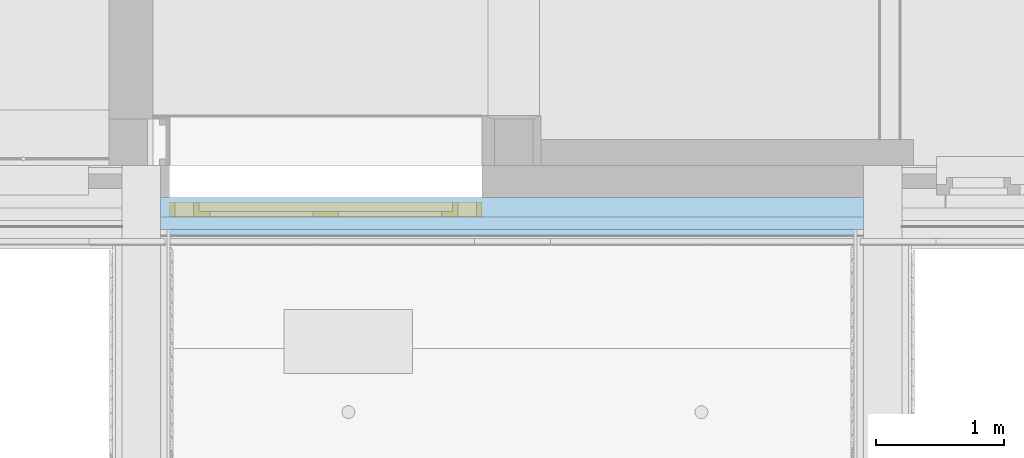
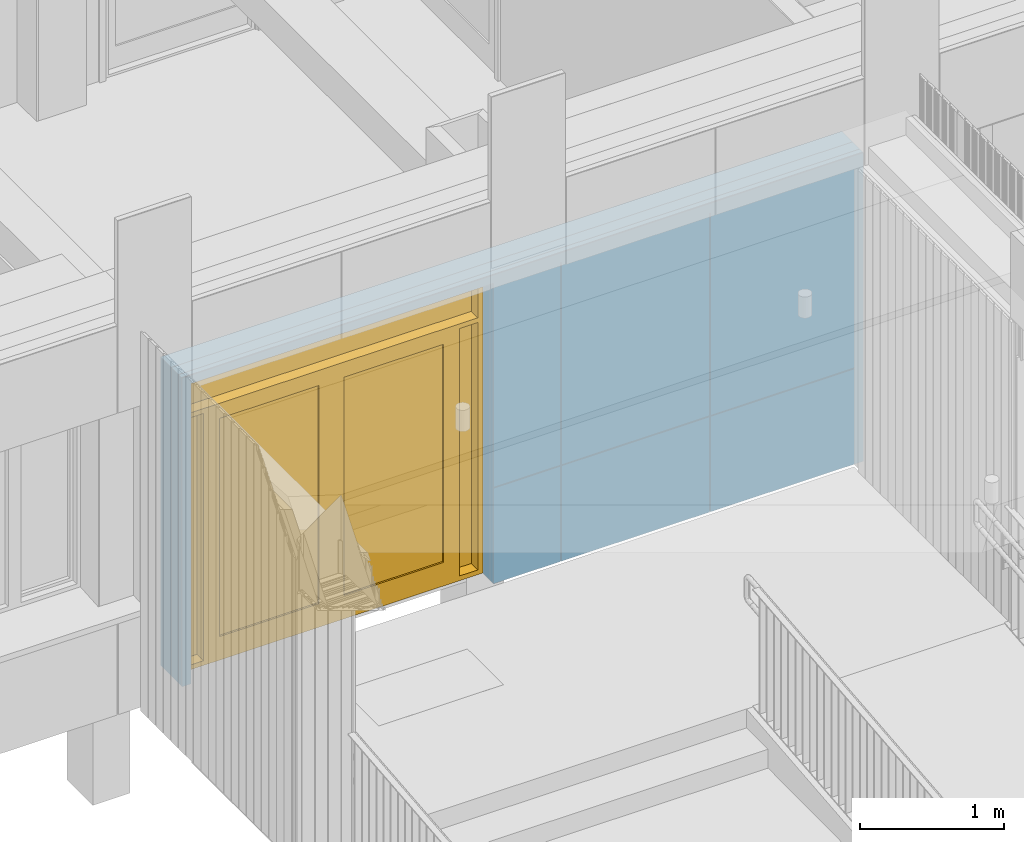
# One storey, part 101 of 418: 1 door, 4 openings, 1 element without a shape of its own, plus 4 elements that do not belong to this part.
"""IFC2X3 building model written with IfcOpenShell, lengths in millimetres."""

import ifcopenshell
import ifcopenshell.guid

model = None  # the IFC model being written
_history = None  # IfcOwnerHistory: only IFC2X3 demands one
_inside = {}  # id of a spatial element -> (the spatial element, [elements in it])
_under = {}  # id of a project, library or spatial element -> (it, [spatial elements below it])
_declared = {}  # id of a project -> (the project, [libraries it declares])
_typed = {}  # id of a type object -> (the type object, [elements of that type])
_made_of = {}  # id of a material, layer set ... -> (it, [elements and type objects made of it])


def new_model(schema):
    """Start an empty IFC model of exactly this schema.

    Asked for "IFC4X3", IfcOpenShell would pick the latest addendum, in which some entities
    have other attributes; the version numbers below select the first issue.
    IFC2X3 requires an IfcOwnerHistory on every rooted entity: one is made here for all.
    """
    global model, _history
    if schema == "IFC4X3":
        model = ifcopenshell.file(schema_version=(4, 3, 0, 0))
    else:
        model = ifcopenshell.file(schema=schema)
    _inside.clear()
    _under.clear()
    _declared.clear()
    _typed.clear()
    _made_of.clear()
    _history = None
    if model.schema == "IFC2X3":
        org = make("IfcOrganization", Name="unknown")
        user = make(
            "IfcPersonAndOrganization",
            ThePerson=make("IfcPerson", FamilyName="unknown"),
            TheOrganization=org,
        )
        app = make(
            "IfcApplication",
            ApplicationDeveloper=org,
            Version="unknown",
            ApplicationFullName="unknown",
            ApplicationIdentifier="unknown",
        )
        _history = make(
            "IfcOwnerHistory",
            OwningUser=user,
            OwningApplication=app,
            ChangeAction="ADDED",
            CreationDate=0,
        )
    return model


def make(cls, **values):
    """One entity of the class cls with the attributes given. An attribute that is None is left unset."""
    return model.create_entity(
        cls, **{name: value for name, value in values.items() if value is not None}
    )


def entity(cls, *values):
    """Any entity or typed value of the class cls, its attributes in the order of the schema. None: left unset."""
    e = model.create_entity(cls)
    for i, value in enumerate(values):
        if value is not None:
            e[i] = value
    return e


def rooted(cls, **values):
    """An entity with a GlobalId (a new one), such as an element, a storey or a relation."""
    return make(cls, GlobalId=ifcopenshell.guid.new(), OwnerHistory=_history, **values)


def si_unit(unit_type, name, prefix=None):
    """IfcSIUnit, for example si_unit("LENGTHUNIT", "METRE", prefix="MILLI")."""
    return make("IfcSIUnit", UnitType=unit_type, Prefix=prefix, Name=name)


def converted_unit(unit_type, name, factor, base, dimensions=None, offset=None):
    """IfcConversionBasedUnit, such as the inch: factor (a typed value) times the base unit."""
    return make(
        "IfcConversionBasedUnit"
        if offset is None
        else "IfcConversionBasedUnitWithOffset",
        ConversionOffset=offset,
        Dimensions=None
        if dimensions is None
        else entity("IfcDimensionalExponents", *dimensions),
        UnitType=unit_type,
        Name=name,
        ConversionFactor=make(
            "IfcMeasureWithUnit", ValueComponent=factor, UnitComponent=base
        ),
    )


def derived_unit(unit_type, elements):
    """IfcDerivedUnit: a product of units, each with its exponent."""
    return make(
        "IfcDerivedUnit",
        Elements=[
            make("IfcDerivedUnitElement", Unit=unit, Exponent=power)
            for unit, power in elements
        ],
        UnitType=unit_type,
    )


def money_unit(currency):
    """IfcMonetaryUnit."""
    return make("IfcMonetaryUnit", Currency=currency)


def assignment(units):
    """IfcUnitAssignment: the units of a project."""
    return None if units is None else make("IfcUnitAssignment", Units=units)


def point(xyz):
    """IfcCartesianPoint."""
    return None if xyz is None else make("IfcCartesianPoint", Coordinates=xyz)


def direction(xyz):
    """IfcDirection."""
    return None if xyz is None else make("IfcDirection", DirectionRatios=xyz)


def frame(location, z_axis=None, x_axis=None):
    """IfcAxis2Placement3D, a coordinate frame: its origin and axes. An axis left out is left unset."""
    return make(
        "IfcAxis2Placement3D",
        Location=point(location),
        Axis=direction(z_axis),
        RefDirection=direction(x_axis),
    )


def frame_2d(location, x_axis=None):
    """IfcAxis2Placement2D, a coordinate frame in the plane: its origin and x axis."""
    return make(
        "IfcAxis2Placement2D", Location=point(location), RefDirection=direction(x_axis)
    )


def origin_with_axes():
    """The frame at (0, 0, 0) with the z axis (0, 0, 1) and the x axis (1, 0, 0) written out."""
    return frame((0.0, 0.0, 0.0), z_axis=(0.0, 0.0, 1.0), x_axis=(1.0, 0.0, 0.0))


def origin_2d_with_axis():
    """The frame at (0, 0) in the plane with the x axis (1, 0) written out."""
    return frame_2d((0.0, 0.0), x_axis=(1.0, 0.0))


def place(relative_to, where):
    """IfcLocalPlacement: puts the frame where relative to a parent placement (None: the world)."""
    return make(
        "IfcLocalPlacement", PlacementRelTo=relative_to, RelativePlacement=where
    )


def context(
    kind, dimensions, precision=None, world=None, true_north=None, identifier=None
):
    """IfcGeometricRepresentationContext, for example the 3D "Model" context."""
    return make(
        "IfcGeometricRepresentationContext",
        ContextIdentifier=identifier,
        ContextType=kind,
        CoordinateSpaceDimension=dimensions,
        Precision=precision,
        WorldCoordinateSystem=world,
        TrueNorth=true_north,
    )


def subcontext(parent, identifier, kind, view, scale=None):
    """IfcGeometricRepresentationSubContext, for example "Body" below "Model"."""
    return make(
        "IfcGeometricRepresentationSubContext",
        ContextIdentifier=identifier,
        ContextType=kind,
        ParentContext=parent,
        TargetScale=scale,
        TargetView=view,
    )


def project(units=None, contexts=None):
    """IfcProject with its units and contexts."""
    return rooted(
        "IfcProject",
        Name="project",
        RepresentationContexts=contexts,
        UnitsInContext=assignment(units),
    )


def spatial(cls, under=None, at=None, **own):
    """A site, building, storey or space (cls), placed at a placement, below another one or the project."""
    s = rooted(cls, ObjectPlacement=at, **own)
    if under is not None:
        _under.setdefault(under.id(), (under, []))[1].append(s)
    return s


def polyline(points):
    """IfcPolyline through the points."""
    return make("IfcPolyline", Points=[point(p) for p in points])


def profile(cls, at=None, kind="AREA", **sizes):
    """A parametric profile (cls). Its sizes go by their IFC names, for example OverallWidth=200.0."""
    return make(cls, ProfileType=kind, Position=at, **sizes)


def rectangle(**sizes):
    """IfcRectangleProfileDef."""
    return profile("IfcRectangleProfileDef", **sizes)


def outline(outer, holes=None, kind="AREA"):
    """IfcArbitraryClosedProfileDef: a profile drawn as a closed curve; with holes, ...WithVoids."""
    if holes is None:
        return make("IfcArbitraryClosedProfileDef", ProfileType=kind, OuterCurve=outer)
    return make(
        "IfcArbitraryProfileDefWithVoids",
        ProfileType=kind,
        OuterCurve=outer,
        InnerCurves=holes,
    )


def extrude(swept, where, along, depth):
    """IfcExtrudedAreaSolid: the profile swept, set in the frame where, extruded along a direction by depth."""
    return make(
        "IfcExtrudedAreaSolid",
        SweptArea=swept,
        Position=where,
        ExtrudedDirection=direction(along),
        Depth=depth,
    )


def faces_of(points, faces, orient=None, outer=None):
    """IfcFace entities. A face is a list of loops; a loop is a list of indices into points, from 0.

    orient and outer hold one flag for each loop. By default every Orientation is true, the
    first loop of a face is its IfcFaceOuterBound and the others are IfcFaceBound.
    """
    made = []
    for i, loops in enumerate(faces):
        bounds = []
        for j, loop in enumerate(loops):
            is_outer = j == 0 if outer is None else outer[i][j]
            bounds.append(
                make(
                    "IfcFaceOuterBound" if is_outer else "IfcFaceBound",
                    Bound=make("IfcPolyLoop", Polygon=[points[k] for k in loop]),
                    Orientation=True if orient is None else orient[i][j],
                )
            )
        made.append(make("IfcFace", Bounds=bounds))
    return made


def open_shell(faces, orient=None, outer=None):
    """The faces of one IfcOpenShell. surface_model builds it on its shared points."""
    return ("IfcOpenShell", faces, orient, outer)


def faceted_brep(points, faces, orient=None, outer=None, voids=None):
    """IfcFacetedBrep: a solid bounded by flat faces; with voids (closed shells), ...WithVoids."""
    shared = [point(p) for p in points]
    hull = make("IfcClosedShell", CfsFaces=faces_of(shared, faces, orient, outer))
    if voids is None:
        return make("IfcFacetedBrep", Outer=hull)
    return make(
        "IfcFacetedBrepWithVoids",
        Outer=hull,
        Voids=[
            make(cls, CfsFaces=faces_of(shared, fs, o, b)) for cls, fs, o, b in voids
        ],
    )


def surface_model(cls, points, shells):
    """IfcFaceBasedSurfaceModel or IfcShellBasedSurfaceModel (cls): surfaces that need not close."""
    shared = [point(p) for p in points]
    made = [make(c, CfsFaces=faces_of(shared, fs, o, b)) for c, fs, o, b in shells]
    if cls == "IfcFaceBasedSurfaceModel":
        return make(cls, FbsmFaces=made)
    return make(cls, SbsmBoundary=made)


def shape(context_of_items, identifier, shape_type, items):
    """IfcShapeRepresentation: the items that make up one representation, for example the "Body"."""
    return make(
        "IfcShapeRepresentation",
        ContextOfItems=context_of_items,
        RepresentationIdentifier=identifier,
        RepresentationType=shape_type,
        Items=items,
    )


def material(Name=None, Category=None):
    """IfcMaterial."""
    return make("IfcMaterial", Name=Name, Category=Category)


def made_of(thing, what):
    """Note that an element or type object is made of a material, layer set ...; save() writes the relation."""
    if what is not None:
        _made_of.setdefault(what.id(), (what, []))[1].append(thing)
    return thing


def type_object(cls, material=None, **own):
    """A type object (cls), such as IfcWallType, which elements share."""
    return made_of(rooted(cls, **own), material)


def element(
    cls,
    number,
    at=None,
    inside=None,
    cuts=None,
    type_object=None,
    material=None,
    context=None,
    identifier="Body",
    shape_type=None,
    held_by="IfcProductDefinitionShape",
    body=None,
    shapes=None,
    **own,
):
    """One element of the class cls, such as IfcWall. Its Tag is "e" and its number.

    at: its placement. inside: the storey or other place that contains it. cuts: it is an
    opening in that element (IfcRelVoidsElement). A single representation is given by context,
    identifier, shape_type and body (its items); several are given by shapes. held_by: the class
    of the entity that holds the representations. save() writes the other relations.
    """
    e = rooted(cls, Tag="e%d" % number, ObjectPlacement=at, **own)
    if body is not None:
        shapes = [shape(context, identifier, shape_type, body)]
    if shapes is not None:
        e.Representation = make(held_by, Representations=shapes)
    if inside is not None:
        _inside.setdefault(inside.id(), (inside, []))[1].append(e)
    if cuts is not None:
        rooted(
            "IfcRelVoidsElement", RelatingBuildingElement=cuts, RelatedOpeningElement=e
        )
    if type_object is not None:
        _typed.setdefault(type_object.id(), (type_object, []))[1].append(e)
    return made_of(e, material)


def fill(opening, filler):
    """IfcRelFillsElement: the door or window that sits in an opening."""
    return rooted(
        "IfcRelFillsElement",
        RelatingOpeningElement=opening,
        RelatedBuildingElement=filler,
    )


def aggregate(whole, parts):
    """IfcRelAggregates: a whole, such as a stair, and the parts it consists of."""
    return rooted("IfcRelAggregates", RelatingObject=whole, RelatedObjects=parts)


def save(model, path):
    """Write the relations noted so far, then the file.

    IfcRelAggregates (storeys below a building ...), IfcRelContainedInSpatialStructure (elements
    in a storey), IfcRelDefinesByType, IfcRelAssociatesMaterial and IfcRelDeclares: one each for
    every whole, place, type object, material and project.
    """
    for whole, parts in _under.values():
        aggregate(whole, parts)
    for where, things in _inside.values():
        rooted(
            "IfcRelContainedInSpatialStructure",
            RelatedElements=things,
            RelatingStructure=where,
        )
    for kind, things in _typed.values():
        rooted("IfcRelDefinesByType", RelatedObjects=things, RelatingType=kind)
    for what, things in _made_of.values():
        rooted("IfcRelAssociatesMaterial", RelatedObjects=things, RelatingMaterial=what)
    for by, libraries in _declared.values():
        rooted("IfcRelDeclares", RelatingContext=by, RelatedDefinitions=libraries)
    model.write(path)


model = new_model("IFC2X3")

# Units and contexts
model_context = context("Model", 3, precision=0.01, world=origin_with_axes(), true_north=direction((0.0, 1.0)))
body_context = subcontext(model_context, "Body", "Model", "MODEL_VIEW")
ifc_project = project(units=[si_unit("LENGTHUNIT", "METRE", prefix="MILLI"), si_unit("AREAUNIT", "SQUARE_METRE"), si_unit("VOLUMEUNIT", "CUBIC_METRE"), converted_unit("PLANEANGLEUNIT", "DEGREE", entity("IfcPlaneAngleMeasure", 0.0174532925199), si_unit("PLANEANGLEUNIT", "RADIAN"), dimensions=[0, 0, 0, 0, 0, 0, 0]), si_unit("SOLIDANGLEUNIT", "STERADIAN"), money_unit("EUR"), converted_unit("TIMEUNIT", "Year", entity("IfcTimeMeasure", 31556926.0), si_unit("TIMEUNIT", "SECOND"), dimensions=[0, 0, 1, 0, 0, 0, 0]), si_unit("MASSUNIT", "GRAM", prefix="KILO"), si_unit("THERMODYNAMICTEMPERATUREUNIT", "DEGREE_CELSIUS"), si_unit("LUMINOUSINTENSITYUNIT", "LUMEN"), si_unit("ENERGYUNIT", "JOULE", prefix="MEGA"), derived_unit("THERMALCONDUCTANCEUNIT", [(si_unit("POWERUNIT", "WATT"), 1), (si_unit("LENGTHUNIT", "METRE"), -1), (si_unit("THERMODYNAMICTEMPERATUREUNIT", "KELVIN"), -1)]), derived_unit("SPECIFICHEATCAPACITYUNIT", [(si_unit("ENERGYUNIT", "JOULE"), 1), (si_unit("MASSUNIT", "GRAM", prefix="KILO"), -1), (si_unit("THERMODYNAMICTEMPERATUREUNIT", "KELVIN"), -1)]), derived_unit("MASSDENSITYUNIT", [(si_unit("MASSUNIT", "GRAM", prefix="KILO"), 1), (si_unit("VOLUMEUNIT", "CUBIC_METRE"), -1)])], contexts=[model_context])

# Site, building, storey
site_placement = place(None, origin_with_axes())
site = spatial("IfcSite", under=ifc_project, at=site_placement, Name="Paldiski mnt 245/1, Tallinn, Harjumaa", CompositionType="COMPLEX")
building_placement = place(site_placement, origin_with_axes())
building = spatial("IfcBuilding", under=site, at=building_placement, Name="RKAS Hoone üldnimetus (kasutust iseloomustav) -> IFC Project Manager -> SOLIBRI", CompositionType="ELEMENT")
storey_placement = place(building_placement, origin_with_axes())
storey = spatial("IfcBuildingStorey", under=building, at=storey_placement, Name="Esimene korrus", CompositionType="ELEMENT", Elevation=0.0)

# Door
door_style = type_object("IfcDoorStyle", Name="Double Door with 2 Sidelights, Transom 23", ConstructionType="NOTDEFINED", OperationType="USERDEFINED", ParameterTakesPrecedence=False, Sizeable=False)
wall_placement = place(storey_placement, frame((-38720.0, -12760.0843011, 0.0), z_axis=(0.0, 0.0, 1.0), x_axis=(-1.0, 0.0, 0.0)))
opening_4_placement = place(wall_placement, frame((4184.5, 0.0, 0.0), z_axis=(0.0, 0.0, 1.0), x_axis=(1.0, 0.0, 0.0)))
door_placement = place(opening_4_placement, frame((-1215.0, 0.0, 0.0), z_axis=(0.0, 0.0, 1.0), x_axis=(1.0, 0.0, 0.0)))
door = element("IfcDoor", 1, at=door_placement, inside=storey, type_object=door_style, Name="VU-01", ObjectType="DOOR", OverallHeight=2550.0, OverallWidth=2430.0, context=body_context, shape_type="SurfaceModel", body=[
    faceted_brep([(2215.0, 110.0, 0.0), (2215.0, 110.0, 20.0), (2203.0, 110.0, 20.0), (2203.0, 110.0, 0.0), (215.0, 110.0, 0.0), (215.0, 110.0, 20.0), (227.0, 110.0, 20.0), (227.0, 35.0000000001, 20.0), (2203.0, 35.0000000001, 20.0), (2203.0, 35.0000000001, 0.0), (227.0, 35.0000000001, 0.0), (227.0, 110.0, 0.0)], [[[0, 1, 2, 3]], [[4, 5, 1, 0]], [[1, 5, 6, 7, 8, 2]], [[3, 2, 8, 9]], [[0, 3, 9, 10, 11, 4]], [[11, 6, 5, 4]], [[10, 7, 6, 11]], [[9, 8, 7, 10]]]),
    faceted_brep([(0.0, 150.0, 0.0), (40.0, 150.0, 0.0), (40.0, 35.0000000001, 0.0), (0.0, 35.0000000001, 0.0), (0.0, 150.0, 2510.0), (40.0, 150.0, 2510.0), (40.0, 150.0, 2180.0), (40.0, 150.0, 2140.0), (40.0, 150.0, 40.0), (40.0, 35.0000000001, 40.0), (40.0, 35.0000000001, 2140.0), (40.0, 35.0000000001, 2180.0), (40.0, 35.0000000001, 2510.0), (0.0, 35.0000000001, 2510.0)], [[[0, 1, 2, 3]], [[0, 4, 5, 6, 7, 8, 1]], [[1, 8, 9, 2]], [[3, 2, 9, 10, 11, 12, 13]], [[4, 0, 3, 13]], [[5, 4, 13, 12]], [[6, 5, 12, 11]], [[7, 6, 11, 10]], [[8, 7, 10, 9]]]),
    faceted_brep([(227.0, 110.0, 0.0), (227.0, 110.0, 2140.0), (227.0, 35.0000000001, 2140.0), (227.0, 35.0000000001, 0.0), (215.0, 110.0, 2140.0), (215.0, 110.0, 0.0), (215.0, 150.0, 2140.0), (187.0, 150.0, 2140.0), (187.0, 35.0000000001, 2140.0), (187.0, 35.0000000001, 0.0), (187.0, 35.0000000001, 40.0), (187.0, 150.0, 0.0), (215.0, 150.0, 0.0), (187.0, 150.0, 40.0)], [[[0, 1, 2, 3]], [[4, 1, 0, 5]], [[4, 6, 7, 8, 2, 1]], [[9, 3, 2, 8, 10]], [[5, 0, 3, 9, 11, 12]], [[6, 4, 5, 12]], [[6, 12, 11, 13, 7]], [[13, 10, 8, 7]], [[11, 9, 10, 13]]]),
    faceted_brep([(40.0, 150.0, 40.0), (40.0, 150.0, 0.0), (40.0, 35.0000000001, 0.0), (40.0, 35.0000000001, 40.0), (187.0, 150.0, 40.0), (187.0, 150.0, 0.0), (187.0, 35.0000000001, 0.0), (187.0, 35.0000000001, 40.0)], [[[0, 1, 2, 3]], [[0, 4, 5, 1]], [[1, 5, 6, 2]], [[3, 2, 6, 7]], [[4, 0, 3, 7]], [[5, 4, 7, 6]]]),
    faceted_brep([(2430.0, 150.0, 0.0), (2430.0, 150.0, 2510.0), (2430.0, 35.0000000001, 2510.0), (2430.0, 35.0000000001, 0.0), (2390.0, 150.0, 0.0), (2390.0, 150.0, 40.0), (2390.0, 150.0, 2140.0), (2390.0, 150.0, 2180.0), (2390.0, 150.0, 2510.0), (2390.0, 35.0000000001, 2510.0), (2390.0, 35.0000000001, 2180.0), (2390.0, 35.0000000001, 2140.0), (2390.0, 35.0000000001, 40.0), (2390.0, 35.0000000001, 0.0)], [[[0, 1, 2, 3]], [[0, 4, 5, 6, 7, 8, 1]], [[1, 8, 9, 2]], [[3, 2, 9, 10, 11, 12, 13]], [[4, 0, 3, 13]], [[5, 4, 13, 12]], [[6, 5, 12, 11]], [[7, 6, 11, 10]], [[8, 7, 10, 9]]]),
    faceted_brep([(2215.0, 110.0, 2140.0), (2203.0, 110.0, 2140.0), (2203.0, 35.0000000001, 2140.0), (2243.0, 35.0000000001, 2140.0), (2243.0, 150.0, 2140.0), (2215.0, 150.0, 2140.0), (2215.0, 110.0, 0.0), (2203.0, 110.0, 0.0), (2203.0, 35.0000000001, 0.0), (2243.0, 35.0000000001, 0.0), (2243.0, 35.0000000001, 40.0), (2243.0, 150.0, 40.0), (2215.0, 150.0, 0.0), (2243.0, 150.0, 0.0)], [[[0, 1, 2, 3, 4, 5]], [[1, 0, 6, 7]], [[1, 7, 8, 2]], [[8, 9, 10, 3, 2]], [[4, 3, 10, 11]], [[12, 5, 4, 11, 13]], [[0, 5, 12, 6]], [[6, 12, 13, 9, 8, 7]], [[11, 10, 9, 13]]]),
    faceted_brep([(2243.0, 150.0, 40.0), (2243.0, 150.0, 0.0), (2243.0, 35.0000000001, 0.0), (2243.0, 35.0000000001, 40.0), (2390.0, 150.0, 40.0), (2390.0, 150.0, 0.0), (2390.0, 35.0000000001, 0.0), (2390.0, 35.0000000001, 40.0)], [[[0, 1, 2, 3]], [[0, 4, 5, 1]], [[1, 5, 6, 2]], [[3, 2, 6, 7]], [[4, 0, 3, 7]], [[5, 4, 7, 6]]]),
    faceted_brep([(0.0, 150.0, 2550.0), (0.0, 150.0, 2510.0), (0.0, 35.0000000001, 2510.0), (0.0, 35.0000000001, 2550.0), (2430.0, 150.0, 2550.0), (2430.0, 150.0, 2510.0), (2390.0, 150.0, 2510.0), (40.0, 150.0, 2510.0), (40.0, 35.0000000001, 2510.0), (2390.0, 35.0000000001, 2510.0), (2430.0, 35.0000000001, 2510.0), (2430.0, 35.0000000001, 2550.0)], [[[0, 1, 2, 3]], [[0, 4, 5, 6, 7, 1]], [[1, 7, 8, 2]], [[3, 2, 8, 9, 10, 11]], [[4, 0, 3, 11]], [[5, 4, 11, 10]], [[6, 5, 10, 9]], [[7, 6, 9, 8]]]),
    faceted_brep([(215.0, 150.0, 2152.0), (215.0, 150.0, 2140.0), (187.0, 150.0, 2140.0), (40.0, 150.0, 2140.0), (40.0, 150.0, 2180.0), (2390.0, 150.0, 2180.0), (2390.0, 150.0, 2140.0), (2243.0, 150.0, 2140.0), (2215.0, 150.0, 2140.0), (2215.0, 150.0, 2152.0), (215.0, 110.0, 2152.0), (215.0, 110.0, 2140.0), (227.0, 110.0, 2140.0), (227.0, 35.0000000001, 2140.0), (187.0, 35.0000000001, 2140.0), (40.0, 35.0000000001, 2140.0), (40.0, 35.0000000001, 2180.0), (2390.0, 35.0000000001, 2180.0), (2390.0, 35.0000000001, 2140.0), (2243.0, 35.0000000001, 2140.0), (2215.0, 110.0, 2140.0), (2203.0, 35.0000000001, 2140.0), (2203.0, 110.0, 2140.0), (2215.0, 110.0, 2152.0)], [[[0, 1, 2, 3, 4, 5, 6, 7, 8, 9]], [[1, 0, 10, 11]], [[11, 12, 13, 14, 2, 1]], [[2, 14, 15, 3]], [[3, 15, 16, 4]], [[4, 16, 17, 5]], [[5, 17, 18, 6]], [[6, 18, 19, 7]], [[20, 8, 7, 19, 21, 22]], [[9, 8, 20, 23]], [[0, 9, 23, 10]], [[20, 22, 12, 11, 10, 23]], [[12, 22, 21, 13]], [[18, 17, 16, 15, 14, 13, 21, 19]]]),
    faceted_brep([(2215.0, 150.0, 200.0), (2215.0, 110.0, 200.0), (2115.0, 110.0, 200.0), (2115.0, 150.0, 200.0), (2215.0, 150.0, 2052.0), (2215.0, 110.0, 2052.0), (2115.0, 110.0, 2052.0), (2115.0, 150.0, 2052.0)], [[[0, 1, 2, 3]], [[4, 5, 1, 0]], [[1, 5, 6, 2]], [[3, 2, 6, 7]], [[0, 3, 7, 4]], [[7, 6, 5, 4]]]),
    faceted_brep([(1215.0, 150.0, 200.0), (1215.0, 110.0, 200.0), (1215.0, 110.0, 2052.0), (1215.0, 150.0, 2052.0), (1315.0, 150.0, 200.0), (1315.0, 110.0, 200.0), (1315.0, 110.0, 2052.0), (1315.0, 150.0, 2052.0)], [[[0, 1, 2, 3]], [[4, 5, 1, 0]], [[1, 5, 6, 2]], [[3, 2, 6, 7]], [[0, 3, 7, 4]], [[7, 6, 5, 4]]]),
    faceted_brep([(2215.0, 150.0, 0.0), (2215.0, 110.0, 0.0), (1215.0, 110.0, 0.0), (1215.0, 150.0, 0.0), (2215.0, 150.0, 200.0), (2215.0, 110.0, 200.0), (2115.0, 110.0, 200.0), (1315.0, 110.0, 200.0), (1215.0, 110.0, 200.0), (1215.0, 150.0, 200.0), (1315.0, 150.0, 200.0), (2115.0, 150.0, 200.0)], [[[0, 1, 2, 3]], [[4, 5, 1, 0]], [[1, 5, 6, 7, 8, 2]], [[3, 2, 8, 9]], [[0, 3, 9, 10, 11, 4]], [[11, 6, 5, 4]], [[10, 7, 6, 11]], [[9, 8, 7, 10]]]),
    faceted_brep([(2215.0, 150.0, 2152.0), (2215.0, 110.0, 2152.0), (2215.0, 110.0, 2052.0), (2215.0, 150.0, 2052.0), (1215.0, 150.0, 2152.0), (1215.0, 110.0, 2152.0), (1215.0, 110.0, 2052.0), (1315.0, 110.0, 2052.0), (2115.0, 110.0, 2052.0), (2115.0, 150.0, 2052.0), (1315.0, 150.0, 2052.0), (1215.0, 150.0, 2052.0)], [[[0, 1, 2, 3]], [[4, 5, 1, 0]], [[1, 5, 6, 7, 8, 2]], [[3, 2, 8, 9]], [[0, 3, 9, 10, 11, 4]], [[11, 6, 5, 4]], [[10, 7, 6, 11]], [[9, 8, 7, 10]]]),
    surface_model("IfcShellBasedSurfaceModel", [(2115.0, 136.0, 200.0), (1315.0, 136.0, 200.0), (1315.0, 136.0, 2052.0), (2115.0, 136.0, 2052.0)], [open_shell([[[0, 1, 2, 3]]])]),
    surface_model("IfcShellBasedSurfaceModel", [(2115.0, 124.0, 200.0), (2115.0, 124.0, 2052.0), (1315.0, 124.0, 2052.0), (1315.0, 124.0, 200.0)], [open_shell([[[0, 1, 2, 3]]])]),
    faceted_brep([(215.0, 150.0, 200.0), (315.0, 150.0, 200.0), (315.0, 110.0, 200.0), (215.0, 110.0, 200.0), (215.0, 150.0, 2052.0), (315.0, 150.0, 2052.0), (315.0, 110.0, 2052.0), (215.0, 110.0, 2052.0)], [[[0, 1, 2, 3]], [[0, 4, 5, 1]], [[1, 5, 6, 2]], [[3, 2, 6, 7]], [[4, 0, 3, 7]], [[5, 4, 7, 6]]]),
    faceted_brep([(1215.0, 150.0, 200.0), (1215.0, 150.0, 2052.0), (1215.0, 110.0, 2052.0), (1215.0, 110.0, 200.0), (1115.0, 150.0, 200.0), (1115.0, 150.0, 2052.0), (1115.0, 110.0, 2052.0), (1115.0, 110.0, 200.0)], [[[0, 1, 2, 3]], [[0, 4, 5, 1]], [[1, 5, 6, 2]], [[3, 2, 6, 7]], [[4, 0, 3, 7]], [[5, 4, 7, 6]]]),
    faceted_brep([(215.0, 150.0, 0.0), (1215.0, 150.0, 0.0), (1215.0, 110.0, 0.0), (215.0, 110.0, 0.0), (215.0, 150.0, 200.0), (315.0, 150.0, 200.0), (1115.0, 150.0, 200.0), (1215.0, 150.0, 200.0), (1215.0, 110.0, 200.0), (1115.0, 110.0, 200.0), (315.0, 110.0, 200.0), (215.0, 110.0, 200.0)], [[[0, 1, 2, 3]], [[0, 4, 5, 6, 7, 1]], [[1, 7, 8, 2]], [[3, 2, 8, 9, 10, 11]], [[4, 0, 3, 11]], [[5, 4, 11, 10]], [[6, 5, 10, 9]], [[7, 6, 9, 8]]]),
    faceted_brep([(215.0, 150.0, 2152.0), (215.0, 150.0, 2052.0), (215.0, 110.0, 2052.0), (215.0, 110.0, 2152.0), (1215.0, 150.0, 2152.0), (1215.0, 150.0, 2052.0), (1115.0, 150.0, 2052.0), (315.0, 150.0, 2052.0), (315.0, 110.0, 2052.0), (1115.0, 110.0, 2052.0), (1215.0, 110.0, 2052.0), (1215.0, 110.0, 2152.0)], [[[0, 1, 2, 3]], [[0, 4, 5, 6, 7, 1]], [[1, 7, 8, 2]], [[3, 2, 8, 9, 10, 11]], [[4, 0, 3, 11]], [[5, 4, 11, 10]], [[6, 5, 10, 9]], [[7, 6, 9, 8]]]),
    surface_model("IfcShellBasedSurfaceModel", [(315.0, 136.0, 200.0), (315.0, 136.0, 2052.0), (1115.0, 136.0, 2052.0), (1115.0, 136.0, 200.0)], [open_shell([[[0, 1, 2, 3]]])]),
    surface_model("IfcShellBasedSurfaceModel", [(315.0, 124.0, 200.0), (1115.0, 124.0, 200.0), (1115.0, 124.0, 2052.0), (315.0, 124.0, 2052.0)], [open_shell([[[0, 1, 2, 3]]])]),
    surface_model("IfcShellBasedSurfaceModel", [(40.0, 59.0000000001, 2180.0), (40.0, 59.0000000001, 2510.0), (2390.0, 59.0000000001, 2510.0), (2390.0, 59.0000000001, 2180.0)], [open_shell([[[0, 1, 2, 3]]])]),
    surface_model("IfcShellBasedSurfaceModel", [(40.0, 47.0000000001, 2180.0), (2390.0, 47.0000000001, 2180.0), (2390.0, 47.0000000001, 2510.0), (40.0, 47.0000000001, 2510.0)], [open_shell([[[0, 1, 2, 3]]])]),
    surface_model("IfcShellBasedSurfaceModel", [(40.0, 59.0000000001, 40.0), (40.0, 59.0000000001, 2140.0), (187.0, 59.0000000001, 2140.0), (187.0, 59.0000000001, 40.0)], [open_shell([[[0, 1, 2, 3]]])]),
    surface_model("IfcShellBasedSurfaceModel", [(40.0, 47.0000000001, 40.0), (187.0, 47.0000000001, 40.0), (187.0, 47.0000000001, 2140.0), (40.0, 47.0000000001, 2140.0)], [open_shell([[[0, 1, 2, 3]]])]),
    surface_model("IfcShellBasedSurfaceModel", [(2243.0, 59.0000000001, 40.0), (2243.0, 59.0000000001, 2140.0), (2390.0, 59.0000000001, 2140.0), (2390.0, 59.0000000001, 40.0)], [open_shell([[[0, 1, 2, 3]]])]),
    surface_model("IfcShellBasedSurfaceModel", [(2243.0, 47.0000000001, 40.0), (2390.0, 47.0000000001, 40.0), (2390.0, 47.0000000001, 2140.0), (2243.0, 47.0000000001, 2140.0)], [open_shell([[[0, 1, 2, 3]]])]),
])

# Wall, openings
wall_type = type_object("IfcWallType", Name="VS-03N_uued_kihid 300", PredefinedType="NOTDEFINED")
wall = element("IfcWall", 2, at=wall_placement, inside=storey, type_object=wall_type, Name="VS-03")
opening_1_placement = place(wall_placement, frame((1230.0, 0.0, 0.0), z_axis=(0.0, 0.0, 1.0), x_axis=(1.0, 0.0, 0.0)))
element("IfcOpeningElement", 3, at=opening_1_placement, cuts=wall, Name="Cembrit fassaadiplaadi vuuk", context=body_context, shape_type="SweptSolid", body=[
    extrude(outline(polyline([(-4.0, 0.0), (4.0, 0.0), (4.0, 2536.94375356), (-4.0, 2536.94375356), (-4.0, 0.0)])), frame((0.0, 292.0, 0.0), z_axis=(0.0, 1.0, 0.0), x_axis=(-1.0, 0.0, 0.0)), (0.0, 0.0, 1.0), 308.0),
])
opening_2_placement = place(wall_placement, frame((2430.0, 0.0, 0.0), z_axis=(0.0, 0.0, 1.0), x_axis=(1.0, 0.0, 0.0)))
element("IfcOpeningElement", 4, at=opening_2_placement, cuts=wall, Name="Cembrit fassaadiplaadi vuuk", context=body_context, shape_type="SweptSolid", body=[
    extrude(outline(polyline([(-4.0, 0.0), (4.0, 0.0), (4.0, 2536.94375356), (-4.0, 2536.94375356), (-4.0, 0.0)])), frame((0.0, 292.0, 0.0), z_axis=(0.0, 1.0, 0.0), x_axis=(-1.0, 0.0, 0.0)), (0.0, 0.0, 1.0), 308.0),
])
opening_3_placement = place(wall_placement, frame((1520.49999047, 0.0, 810.0), z_axis=(0.0, 0.0, 1.0), x_axis=(1.0, 0.0, 0.0)))
element("IfcOpeningElement", 5, at=opening_3_placement, cuts=wall, Name="Cembrit fassaadiplaadi vuuk", context=body_context, shape_type="SweptSolid", body=[
    extrude(outline(polyline([(-1449.50000953, 0.0), (1449.50000953, 0.0), (1449.50000953, 8.0), (-1449.50000953, 8.0), (-1449.50000953, 0.0)])), frame((0.0, 292.0, 0.0), z_axis=(0.0, 1.0, 0.0), x_axis=(-1.0, 0.0, 0.0)), (0.0, 0.0, 1.0), 308.0),
])
opening_4 = element("IfcOpeningElement", 6, at=opening_4_placement, cuts=wall, Name="VU-01", context=body_context, shape_type="SweptSolid", body=[
    extrude(rectangle(XDim=2430.0, YDim=2550.0, at=origin_2d_with_axis()), frame((0.0, 150.0, 1275.0), z_axis=(0.0, -1.0, 0.0), x_axis=(1.0, 0.0, 0.0)), (0.0, 0.0, -1.0), 450.0),
    extrude(rectangle(XDim=2430.0, YDim=2550.0, at=origin_2d_with_axis()), frame((0.0, 150.0, 1275.0), z_axis=(0.0, 1.0, 0.0), x_axis=(1.0, 0.0, 0.0)), (0.0, 0.0, -1.0), 450.0),
])

fill(opening_4, door)

# Building element part
ifc_material_1 = material(Name="Cembrit_C060")
building_element_part_1_placement = place(wall_placement, origin_with_axes())
building_element_part_1 = element("IfcBuildingElementPart", 7, at=building_element_part_1_placement, material=ifc_material_1, Name="Cembrit_C060", context=body_context, shape_type="SweptSolid", body=[
    extrude(outline(polyline([(0.0, 292.0), (5470.0, 292.0), (5470.0, 300.0), (0.0, 300.0), (0.0, 292.0)])), origin_with_axes(), (0.0, 0.0, 1.0), 2620.0),
])

ifc_material_2 = material(Name="VKR-06_Õhkvahe")
building_element_part_2_placement = place(wall_placement, origin_with_axes())
building_element_part_2 = element("IfcBuildingElementPart", 8, at=building_element_part_2_placement, material=ifc_material_2, Name="VKR-06_Õhkvahe", context=body_context, shape_type="SweptSolid", body=[
    extrude(outline(polyline([(0.0, 250.0), (5470.0, 250.0), (5470.0, 292.0), (0.0, 292.0), (0.0, 250.0)])), origin_with_axes(), (0.0, 0.0, 1.0), 2620.0),
])

ifc_material_3 = material(Name="Kingspan Kooltherm")
building_element_part_3_placement = place(wall_placement, origin_with_axes())
building_element_part_3 = element("IfcBuildingElementPart", 9, at=building_element_part_3_placement, material=ifc_material_3, Name="Kingspan Kooltherm", context=body_context, shape_type="SweptSolid", body=[
    extrude(outline(polyline([(0.0, 150.0), (5470.0, 150.0), (5470.0, 250.0), (0.0, 250.0), (0.0, 150.0)])), origin_with_axes(), (0.0, 0.0, 1.0), 2620.0),
])

building_element_part_4_placement = place(wall_placement, origin_with_axes())
building_element_part_4 = element("IfcBuildingElementPart", 10, at=building_element_part_4_placement, material=ifc_material_3, Name="Kingspan Kooltherm", context=body_context, shape_type="SweptSolid", body=[
    extrude(outline(polyline([(0.0, 0.0), (5470.0, 0.0), (5470.0, 150.0), (0.0, 150.0), (0.0, 0.0)])), origin_with_axes(), (0.0, 0.0, 1.0), 2620.0),
])

aggregate(wall, [building_element_part_1, building_element_part_2, building_element_part_3, building_element_part_4])

save(model, "model.ifc")
